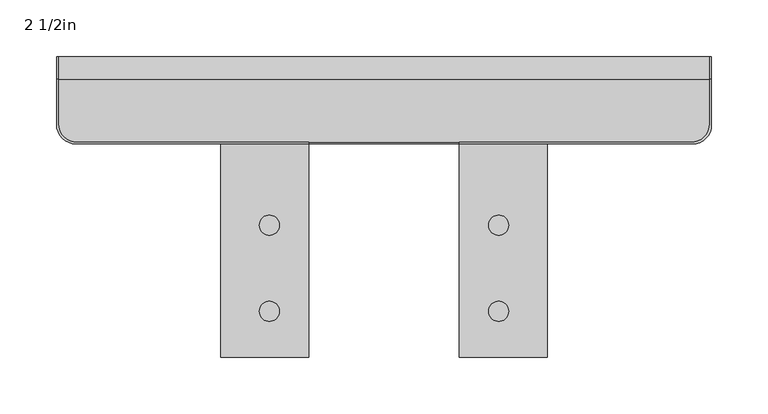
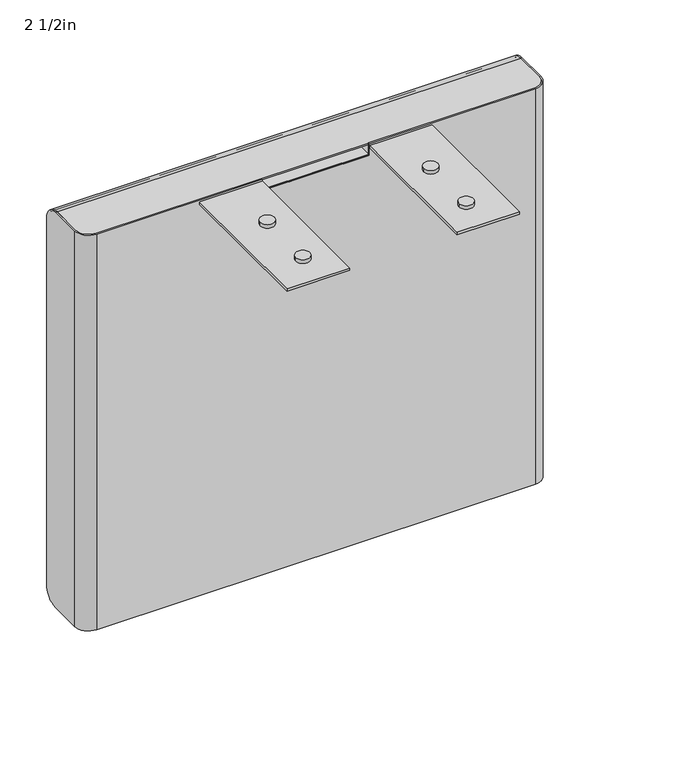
"""IFC4 building model written with IfcOpenShell, lengths in millimetres: furniture geometry, Steelcase - Media Scape - CODEC Case : 2 1/2in."""

import ifcopenshell
import ifcopenshell.guid

model = None  # the IFC model being written
_history = None  # IfcOwnerHistory: only IFC2X3 demands one
_inside = {}  # id of a spatial element -> (the spatial element, [elements in it])
_under = {}  # id of a project, library or spatial element -> (it, [spatial elements below it])
_declared = {}  # id of a project -> (the project, [libraries it declares])
_typed = {}  # id of a type object -> (the type object, [elements of that type])
_made_of = {}  # id of a material, layer set ... -> (it, [elements and type objects made of it])


def new_model(schema):
    """Start an empty IFC model of exactly this schema.

    Asked for "IFC4X3", IfcOpenShell would pick the latest addendum, in which some entities
    have other attributes; the version numbers below select the first issue.
    IFC2X3 requires an IfcOwnerHistory on every rooted entity: one is made here for all.
    """
    global model, _history
    if schema == "IFC4X3":
        model = ifcopenshell.file(schema_version=(4, 3, 0, 0))
    else:
        model = ifcopenshell.file(schema=schema)
    _inside.clear()
    _under.clear()
    _declared.clear()
    _typed.clear()
    _made_of.clear()
    _history = None
    if model.schema == "IFC2X3":
        org = make("IfcOrganization", Name="unknown")
        user = make(
            "IfcPersonAndOrganization",
            ThePerson=make("IfcPerson", FamilyName="unknown"),
            TheOrganization=org,
        )
        app = make(
            "IfcApplication",
            ApplicationDeveloper=org,
            Version="unknown",
            ApplicationFullName="unknown",
            ApplicationIdentifier="unknown",
        )
        _history = make(
            "IfcOwnerHistory",
            OwningUser=user,
            OwningApplication=app,
            ChangeAction="ADDED",
            CreationDate=0,
        )
    return model


def make(cls, **values):
    """One entity of the class cls with the attributes given. An attribute that is None is left unset."""
    return model.create_entity(
        cls, **{name: value for name, value in values.items() if value is not None}
    )


def rooted(cls, **values):
    """An entity with a GlobalId (a new one), such as an element, a storey or a relation."""
    return make(cls, GlobalId=ifcopenshell.guid.new(), OwnerHistory=_history, **values)


def si_unit(unit_type, name, prefix=None):
    """IfcSIUnit, for example si_unit("LENGTHUNIT", "METRE", prefix="MILLI")."""
    return make("IfcSIUnit", UnitType=unit_type, Prefix=prefix, Name=name)


def assignment(units):
    """IfcUnitAssignment: the units of a project."""
    return None if units is None else make("IfcUnitAssignment", Units=units)


def point(xyz):
    """IfcCartesianPoint."""
    return None if xyz is None else make("IfcCartesianPoint", Coordinates=xyz)


def direction(xyz):
    """IfcDirection."""
    return None if xyz is None else make("IfcDirection", DirectionRatios=xyz)


def frame(location, z_axis=None, x_axis=None):
    """IfcAxis2Placement3D, a coordinate frame: its origin and axes. An axis left out is left unset."""
    return make(
        "IfcAxis2Placement3D",
        Location=point(location),
        Axis=direction(z_axis),
        RefDirection=direction(x_axis),
    )


def frame_2d(location, x_axis=None):
    """IfcAxis2Placement2D, a coordinate frame in the plane: its origin and x axis."""
    return make(
        "IfcAxis2Placement2D", Location=point(location), RefDirection=direction(x_axis)
    )


def origin():
    """The frame at (0, 0, 0) with its axes left unset."""
    return frame((0.0, 0.0, 0.0))


def place(relative_to, where):
    """IfcLocalPlacement: puts the frame where relative to a parent placement (None: the world)."""
    return make(
        "IfcLocalPlacement", PlacementRelTo=relative_to, RelativePlacement=where
    )


def context(
    kind, dimensions, precision=None, world=None, true_north=None, identifier=None
):
    """IfcGeometricRepresentationContext, for example the 3D "Model" context."""
    return make(
        "IfcGeometricRepresentationContext",
        ContextIdentifier=identifier,
        ContextType=kind,
        CoordinateSpaceDimension=dimensions,
        Precision=precision,
        WorldCoordinateSystem=world,
        TrueNorth=true_north,
    )


def project(units=None, contexts=None):
    """IfcProject with its units and contexts."""
    return rooted(
        "IfcProject",
        Name="project",
        RepresentationContexts=contexts,
        UnitsInContext=assignment(units),
    )


def spatial(cls, under=None, at=None, **own):
    """A site, building, storey or space (cls), placed at a placement, below another one or the project."""
    s = rooted(cls, ObjectPlacement=at, **own)
    if under is not None:
        _under.setdefault(under.id(), (under, []))[1].append(s)
    return s


def polyline(points):
    """IfcPolyline through the points."""
    return make("IfcPolyline", Points=[point(p) for p in points])


def circle_curve(where, radius):
    """IfcCircle in the frame where."""
    return make("IfcCircle", Position=where, Radius=radius)


def trimmed(basis, trim1, trim2, sense, master):
    """IfcTrimmedCurve: the piece of a basis curve between two trims."""
    return make(
        "IfcTrimmedCurve",
        BasisCurve=basis,
        Trim1=trim1,
        Trim2=trim2,
        SenseAgreement=sense,
        MasterRepresentation=master,
    )


def segment(curve, same_sense, transition):
    """IfcCompositeCurveSegment."""
    return make(
        "IfcCompositeCurveSegment",
        Transition=transition,
        SameSense=same_sense,
        ParentCurve=curve,
    )


def composite_curve(segments, self_intersect=None):
    """IfcCompositeCurve: segments joined end to end."""
    return make("IfcCompositeCurve", Segments=segments, SelfIntersect=self_intersect)


def outline(outer, holes=None, kind="AREA"):
    """IfcArbitraryClosedProfileDef: a profile drawn as a closed curve; with holes, ...WithVoids."""
    if holes is None:
        return make("IfcArbitraryClosedProfileDef", ProfileType=kind, OuterCurve=outer)
    return make(
        "IfcArbitraryProfileDefWithVoids",
        ProfileType=kind,
        OuterCurve=outer,
        InnerCurves=holes,
    )


def extrude(swept, where, along, depth):
    """IfcExtrudedAreaSolid: the profile swept, set in the frame where, extruded along a direction by depth."""
    return make(
        "IfcExtrudedAreaSolid",
        SweptArea=swept,
        Position=where,
        ExtrudedDirection=direction(along),
        Depth=depth,
    )


def shape(context_of_items, identifier, shape_type, items):
    """IfcShapeRepresentation: the items that make up one representation, for example the "Body"."""
    return make(
        "IfcShapeRepresentation",
        ContextOfItems=context_of_items,
        RepresentationIdentifier=identifier,
        RepresentationType=shape_type,
        Items=items,
    )


def source(mapping_origin, context_of_items, identifier, shape_type, items):
    """IfcRepresentationMap: a shape defined once, which mapped items show again and again."""
    return make(
        "IfcRepresentationMap",
        MappingOrigin=mapping_origin,
        MappedRepresentation=shape(context_of_items, identifier, shape_type, items),
    )


def transform(
    local_origin,
    x_axis=None,
    y_axis=None,
    z_axis=None,
    scale=None,
    scale2=None,
    scale3=None,
    uniform=True,
):
    """IfcCartesianTransformationOperator3D, or its non-uniform kind. x_axis, y_axis, z_axis: its Axis1, 2, 3."""
    if uniform:
        return make(
            "IfcCartesianTransformationOperator3D",
            Axis1=direction(x_axis),
            Axis2=direction(y_axis),
            LocalOrigin=point(local_origin),
            Scale=scale,
            Axis3=direction(z_axis),
        )
    return make(
        "IfcCartesianTransformationOperator3DnonUniform",
        Axis1=direction(x_axis),
        Axis2=direction(y_axis),
        LocalOrigin=point(local_origin),
        Scale=scale,
        Axis3=direction(z_axis),
        Scale2=scale2,
        Scale3=scale3,
    )


def mapped(mapping_source, mapping_target):
    """IfcMappedItem: shows the shape of a source again, moved by a transform."""
    return make(
        "IfcMappedItem", MappingSource=mapping_source, MappingTarget=mapping_target
    )


def made_of(thing, what):
    """Note that an element or type object is made of a material, layer set ...; save() writes the relation."""
    if what is not None:
        _made_of.setdefault(what.id(), (what, []))[1].append(thing)
    return thing


def element(
    cls,
    number,
    at=None,
    inside=None,
    cuts=None,
    type_object=None,
    material=None,
    context=None,
    identifier="Body",
    shape_type=None,
    held_by="IfcProductDefinitionShape",
    body=None,
    shapes=None,
    **own,
):
    """One element of the class cls, such as IfcWall. Its Tag is "e" and its number.

    at: its placement. inside: the storey or other place that contains it. cuts: it is an
    opening in that element (IfcRelVoidsElement). A single representation is given by context,
    identifier, shape_type and body (its items); several are given by shapes. held_by: the class
    of the entity that holds the representations. save() writes the other relations.
    """
    e = rooted(cls, Tag="e%d" % number, ObjectPlacement=at, **own)
    if body is not None:
        shapes = [shape(context, identifier, shape_type, body)]
    if shapes is not None:
        e.Representation = make(held_by, Representations=shapes)
    if inside is not None:
        _inside.setdefault(inside.id(), (inside, []))[1].append(e)
    if cuts is not None:
        rooted(
            "IfcRelVoidsElement", RelatingBuildingElement=cuts, RelatedOpeningElement=e
        )
    if type_object is not None:
        _typed.setdefault(type_object.id(), (type_object, []))[1].append(e)
    return made_of(e, material)


def aggregate(whole, parts):
    """IfcRelAggregates: a whole, such as a stair, and the parts it consists of."""
    return rooted("IfcRelAggregates", RelatingObject=whole, RelatedObjects=parts)


def save(model, path):
    """Write the relations noted so far, then the file.

    IfcRelAggregates (storeys below a building ...), IfcRelContainedInSpatialStructure (elements
    in a storey), IfcRelDefinesByType, IfcRelAssociatesMaterial and IfcRelDeclares: one each for
    every whole, place, type object, material and project.
    """
    for whole, parts in _under.values():
        aggregate(whole, parts)
    for where, things in _inside.values():
        rooted(
            "IfcRelContainedInSpatialStructure",
            RelatedElements=things,
            RelatingStructure=where,
        )
    for kind, things in _typed.values():
        rooted("IfcRelDefinesByType", RelatedObjects=things, RelatingType=kind)
    for what, things in _made_of.values():
        rooted("IfcRelAssociatesMaterial", RelatedObjects=things, RelatingMaterial=what)
    for by, libraries in _declared.values():
        rooted("IfcRelDeclares", RelatingContext=by, RelatedDefinitions=libraries)
    model.write(path)


def plane_surface(at):
    """IfcPlane: the flat surface through the origin of the frame at, square to its z axis."""
    return make("IfcPlane", Position=at)


def cylinder_surface(at, radius):
    """IfcCylindricalSurface: all points at the distance radius from the z axis of the frame at."""
    return make("IfcCylindricalSurface", Position=at, Radius=radius)


def revolved_surface(curve, axis_point, axis_direction):
    """IfcSurfaceOfRevolution: the curve turned about the line through axis_point along axis_direction."""
    return make(
        "IfcSurfaceOfRevolution",
        SweptCurve=make("IfcArbitraryOpenProfileDef", ProfileType="CURVE", Curve=curve),
        AxisPosition=make("IfcAxis1Placement", Location=point(axis_point), Axis=direction(axis_direction)),
    )


def advanced_brep(points, edges, surfaces, faces):
    """IfcAdvancedBrep: a solid bounded by faces that lie on surfaces and meet in shared edges.

    An edge is (start, end): straight between two places in points (the first is 0);
    or (start, end, curve); or (start, end, curve, False) where it runs against its curve.
    A face is (place in surfaces, loops), or (place, loops, False) where it looks against
    its surface's normal. A loop lists edges by number (the first is 1), with a minus sign
    where the edge is run from its end to its start. The first loop is the outer one.
    """
    corners = [point(p) for p in points]
    vertices = [make("IfcVertexPoint", VertexGeometry=c) for c in corners]
    made = []
    for start, end, *more in edges:
        made.append(
            make(
                "IfcEdgeCurve",
                EdgeStart=vertices[start],
                EdgeEnd=vertices[end],
                EdgeGeometry=more[0] if more else make("IfcPolyline", Points=[corners[start], corners[end]]),
                SameSense=more[1] if len(more) > 1 else True,
            )
        )
    hull = []
    for where, loops, *sense in faces:
        bounds = []
        for j, loop in enumerate(loops):
            ring = [make("IfcOrientedEdge", EdgeElement=made[abs(k) - 1], Orientation=k > 0) for k in loop]
            bounds.append(
                make(
                    "IfcFaceOuterBound" if j == 0 else "IfcFaceBound",
                    Bound=make("IfcEdgeLoop", EdgeList=ring),
                    Orientation=True,
                )
            )
        hull.append(make("IfcAdvancedFace", Bounds=bounds, FaceSurface=surfaces[where], SameSense=sense[0] if sense else True))
    return make("IfcAdvancedBrep", Outer=make("IfcClosedShell", CfsFaces=hull))


def furniture_2_1_2in_ef0c8fad(model_context):
    return source(origin(), model_context, "Body", "SolidModel", [
        extrude(outline(composite_curve([segment(trimmed(circle_curve(frame_2d((203.2001796, 649.0981023)), 16.9406977), [point((219.6015054, 653.3388273))], [point((219.9157427, 651.8507713))], False, "CARTESIAN"), True, "CONTINUOUS"), segment(polyline([(219.9157427, 651.8507713), (146.6586771, 651.8507713), (146.6586771, 653.3388273), (219.6015054, 653.3388273)]), True, "CONTINUOUS")], self_intersect=False)), frame((-66.6877, 0.0, 0.0), z_axis=(1.0, 0.0, 0.0), x_axis=(0.0, 1.0, 0.0)), (0.0, 0.0, 1.0), 133.3754),
        advanced_brep(
        [(-289.4965, 162.5295872, 668.3248), (-272.1015899, 145.1346771, 668.3248), (-66.6877, 145.1346771, 668.3248), (-66.6877, 146.6586771, 668.3248), (-271.605282, 146.6586771, 668.3248), (-287.9725, 163.0258952, 668.3248), (-287.9725, 202.5638753, 668.3248), (-289.4965, 202.5638753, 668.3248), (272.7502806, 145.1346771, 668.3248), (289.4965, 161.8808965, 668.3248), (289.4965, 202.5638753, 668.3248), (287.9725, 202.5638753, 668.3248), (287.9725, 162.9078418, 668.3248), (271.7233353, 146.6586771, 668.3248), (66.6877, 146.6586771, 668.3248), (66.6877, 145.1346771, 668.3248), (-287.9725, 163.0258952, 149.4028), (-271.605282, 146.6586771, 149.4028), (271.7233353, 146.6586771, 149.4028), (287.9725, 162.9078418, 149.4028), (287.9725, 203.3768772, 149.4028), (289.4965, 203.3768772, 149.4028), (289.4965, 161.8808965, 149.4028), (272.7502806, 145.1346771, 149.4028), (-272.1015899, 145.1346771, 149.4028), (-289.4965, 162.5295872, 149.4028), (-289.4965, 203.3768772, 149.4028), (-287.9725, 203.3768772, 149.4028), (-287.9725, 222.4268772, 168.4528), (-287.9725, 222.4268771, 648.4617981), (-289.4965, 222.4268771, 168.4528), (-289.4965, 222.4268771, 648.4617981), (66.6877, 145.1346771, 653.3388273), (-66.6877, 145.1346771, 653.3388273), (289.4965, 222.4268772, 168.4528), (289.4965, 222.4268772, 648.4617981), (287.9725, 222.4268772, 168.4528), (287.9725, 222.4268772, 648.4617981), (-66.6877, 146.6586771, 653.3388273), (66.6877, 146.6586771, 653.3388273)],
        [
            (0, 1, circle_curve(frame((-272.1015899, 162.5295872, 668.3248), z_axis=(0.0, 0.0, 1.0), x_axis=(1.0, 0.0, 0.0)), 17.3949101)),
            (1, 2),
            (2, 3),
            (3, 4),
            (4, 5, circle_curve(frame((-271.605282, 163.0258952, 668.3248), z_axis=(0.0, 0.0, -1.0), x_axis=(1.0, 0.0, 0.0)), 16.367218)),
            (5, 6),
            (6, 7),
            (7, 0),
            (8, 9, circle_curve(frame((272.7502806, 161.8808965, 668.3248), z_axis=(0.0, 0.0, 1.0), x_axis=(1.0, 0.0, 0.0)), 16.7462194)),
            (9, 10),
            (10, 11),
            (11, 12),
            (12, 13, circle_curve(frame((271.7233353, 162.9078418, 668.3248), z_axis=(0.0, 0.0, -1.0), x_axis=(1.0, 0.0, 0.0)), 16.2491647)),
            (13, 14),
            (14, 15),
            (15, 8),
            (16, 17, circle_curve(frame((-271.605282, 163.0258952, 149.4028), z_axis=(0.0, 0.0, 1.0), x_axis=(1.0, 0.0, 0.0)), 16.367218)),
            (17, 18),
            (18, 19, circle_curve(frame((271.7233353, 162.9078418, 149.4028), z_axis=(0.0, 0.0, 1.0), x_axis=(1.0, 0.0, 0.0)), 16.2491647)),
            (19, 20),
            (20, 21),
            (21, 22),
            (22, 23, circle_curve(frame((272.7502806, 161.8808965, 149.4028), z_axis=(0.0, 0.0, -1.0), x_axis=(1.0, 0.0, 0.0)), 16.7462194)),
            (23, 24),
            (24, 25, circle_curve(frame((-272.1015899, 162.5295872, 149.4028), z_axis=(0.0, 0.0, -1.0), x_axis=(1.0, 0.0, 0.0)), 17.3949101)),
            (25, 26),
            (26, 27),
            (27, 16),
            (5, 16),
            (27, 28, circle_curve(frame((-287.9725, 203.3768772, 168.4528), z_axis=(1.0, 0.0, 0.0), x_axis=(0.0, -1.0, 0.0)), 19.05)),
            (28, 29),
            (29, 6, circle_curve(frame((-287.9725, 202.5638753, 648.4617981), z_axis=(1.0, 0.0, 0.0), x_axis=(0.0, -1.0, 0.0)), 19.8630019)),
            (28, 30),
            (30, 31),
            (31, 29),
            (25, 0),
            (7, 31, circle_curve(frame((-289.4965, 202.5638753, 648.4617981), z_axis=(-1.0, 0.0, 0.0), x_axis=(0.0, -1.0, 0.0)), 19.8630019)),
            (30, 26, circle_curve(frame((-289.4965, 203.3768772, 168.4528), z_axis=(-1.0, 0.0, 0.0), x_axis=(0.0, -1.0, 0.0)), 19.05)),
            (24, 1),
            (23, 8),
            (15, 32),
            (32, 33),
            (33, 2),
            (22, 9),
            (21, 34, circle_curve(frame((289.4965, 203.3768772, 168.4528), z_axis=(1.0, 0.0, 0.0), x_axis=(0.0, -1.0, 0.0)), 19.05)),
            (34, 35),
            (35, 10, circle_curve(frame((289.4965, 202.5638753, 648.4617981), z_axis=(1.0, 0.0, 0.0), x_axis=(0.0, -1.0, 0.0)), 19.8630019)),
            (34, 36),
            (36, 37),
            (37, 35),
            (19, 12),
            (11, 37, circle_curve(frame((287.9725, 202.5638753, 648.4617981), z_axis=(-1.0, 0.0, 0.0), x_axis=(0.0, -1.0, 0.0)), 19.8630019)),
            (36, 20, circle_curve(frame((287.9725, 203.3768772, 168.4528), z_axis=(-1.0, 0.0, 0.0), x_axis=(0.0, -1.0, 0.0)), 19.05)),
            (18, 13),
            (17, 4),
            (3, 38),
            (38, 39),
            (39, 14),
            (39, 32),
            (38, 33),
        ],
        [
            plane_surface(frame((-287.9725, 222.4268772, 668.3248), z_axis=(0.0, 0.0, 1.0), x_axis=(0.0, 1.0, 0.0))),
            plane_surface(frame((-287.9725, 222.4268772, 149.4028), z_axis=(0.0, 0.0, -1.0), x_axis=(0.0, -1.0, 0.0))),
            plane_surface(frame((-287.9725, 163.0258952, 668.3248), z_axis=(1.0, 0.0, 0.0), x_axis=(0.0, 0.0, -1.0))),
            plane_surface(frame((-287.9725, 222.4268771, 668.3248), z_axis=(0.0, 1.0, 0.0), x_axis=(0.0, 0.0, -1.0))),
            plane_surface(frame((-289.4965, 222.4268771, 668.3248), z_axis=(-1.0, 0.0, 0.0), x_axis=(0.0, 0.0, -1.0))),
            cylinder_surface(frame((-272.1015899, 162.5295872, 149.4028), z_axis=(0.0, 0.0, 1.0), x_axis=(1.0, 0.0, 0.0)), 17.3949101),
            plane_surface(frame((-272.1015899, 145.1346771, 668.3248), z_axis=(0.0, -1.0, 0.0), x_axis=(0.0, 0.0, -1.0))),
            cylinder_surface(frame((272.7502806, 161.8808965, 149.4028), z_axis=(0.0, 0.0, 1.0), x_axis=(1.0, 0.0, 0.0)), 16.7462194),
            plane_surface(frame((289.4965, 161.8808965, 668.3248), z_axis=(1.0, 0.0, 0.0), x_axis=(0.0, 0.0, -1.0))),
            plane_surface(frame((289.4965, 222.4268772, 668.3248), z_axis=(0.0, 1.0, 0.0), x_axis=(0.0, 0.0, -1.0))),
            plane_surface(frame((287.9725, 222.4268772, 668.3248), z_axis=(-1.0, 0.0, 0.0), x_axis=(0.0, 0.0, -1.0))),
            revolved_surface(polyline([(287.97249999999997, 162.9078418, 149.4028), (287.97249999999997, 162.9078418, 668.3248000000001)]), (271.7233353, 162.9078418, 149.4028), (0.0, 0.0, -1.0)),
            plane_surface(frame((271.7233353, 146.6586771, 668.3248), z_axis=(0.0, 1.0, 0.0), x_axis=(0.0, 0.0, -1.0))),
            revolved_surface(polyline([(-255.23806399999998, 163.0258952, 149.4028), (-255.23806399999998, 163.0258952, 668.3248000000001)]), (-271.605282, 163.0258952, 149.4028), (0.0, 0.0, -1.0)),
            cylinder_surface(frame((-301.5442454, 202.5638753, 648.4617981), z_axis=(-1.0, 0.0, 0.0), x_axis=(0.0, -1.0, 0.0)), 19.8630019),
            cylinder_surface(frame((-301.5442454, 203.3768772, 168.4528), z_axis=(-1.0, 0.0, 0.0), x_axis=(0.0, -1.0, 0.0)), 19.05),
            plane_surface(frame((66.6877, 319.0306772, 679.4349791), z_axis=(-1.0, 0.0, 0.0), x_axis=(0.0, -1.0, 0.0))),
            plane_surface(frame((66.6877, 319.0306772, 653.3388273), z_axis=(0.0, 0.0, 1.0), x_axis=(0.0, -1.0, 0.0))),
            plane_surface(frame((-66.6877, 319.0306772, 653.3388273), z_axis=(1.0, 0.0, 0.0), x_axis=(0.0, -1.0, 0.0))),
        ],
        [
            (0, [[1, 2, 3, 4, 5, 6, 7, 8]]),
            (0, [[9, 10, 11, 12, 13, 14, 15, 16]]),
            (1, [[17, 18, 19, 20, 21, 22, 23, 24, 25, 26, 27, 28]]),
            (2, [[29, -28, 30, 31, 32, -6]]),
            (3, [[-31, 33, 34, 35]]),
            (4, [[36, -8, 37, -34, 38, -26]]),
            (5, [[-1, -36, -25, 39]]),
            (6, [[-24, 40, -16, 41, 42, 43, -2, -39]]),
            (7, [[-9, -40, -23, 44]]),
            (8, [[-44, -22, 45, 46, 47, -10]]),
            (9, [[-46, 48, 49, 50]]),
            (10, [[51, -12, 52, -49, 53, -20]]),
            (11, [[-13, -51, -19, 54]]),
            (12, [[-18, 55, -4, 56, 57, 58, -14, -54]]),
            (13, [[-5, -55, -17, -29]]),
            (14, [[-7, -32, -35, -37]]),
            (14, [[-11, -47, -50, -52]]),
            (15, [[-21, -53, -48, -45]]),
            (15, [[-27, -38, -33, -30]]),
            (16, [[59, -41, -15, -58]]),
            (17, [[-59, -57, 60, -42]]),
            (18, [[-60, -56, -3, -43]]),
        ],
    ),
        advanced_brep(
        [(287.9725, 203.3768772, 149.4028), (287.9725, 222.4268772, 168.4528), (287.9725, 222.4268772, 648.4617981), (287.9725, 202.5638753, 668.3248), (287.9725, 162.9078418, 668.3248), (287.9725, 162.9078418, 666.0388), (287.9725, 203.2001796, 666.0388), (287.9725, 220.1408772, 649.0981023), (287.9725, 220.1408772, 168.3752942), (287.9725, 203.454383, 151.6888), (287.9725, 162.9078418, 151.6888), (287.9725, 162.9078418, 149.4028), (-287.9725, 203.454383, 151.6888), (-287.9725, 220.1408772, 168.3752942), (-287.9725, 220.1408772, 649.0981023), (-287.9725, 203.2001796, 666.0388), (-287.9725, 163.0258952, 666.0388), (-287.9725, 163.0258952, 668.3248), (-287.9725, 202.5638753, 668.3248), (-287.9725, 222.4268772, 648.4617981), (-287.9725, 222.4268772, 168.4528), (-287.9725, 203.3768772, 149.4028), (-287.9725, 163.0258952, 149.4028), (-287.9725, 163.0258952, 151.6888), (-271.605282, 146.6586771, 151.6888), (271.7233353, 146.6586771, 151.6888), (-271.605282, 146.6586771, 149.4028), (271.7233353, 146.6586771, 149.4028), (-271.605282, 146.6586771, 668.3248), (271.7233353, 146.6586771, 668.3248), (-271.605282, 146.6586771, 666.0388), (271.7233353, 146.6586771, 666.0388)],
        [
            (0, 1, circle_curve(frame((287.9725, 203.3768772, 168.4528), z_axis=(1.0, 0.0, 0.0), x_axis=(0.0, -1.0, 0.0)), 19.05)),
            (1, 2),
            (2, 3, circle_curve(frame((287.9725, 202.5638753, 648.4617981), z_axis=(1.0, 0.0, 0.0), x_axis=(0.0, -1.0, 0.0)), 19.8630019)),
            (3, 4),
            (4, 5),
            (5, 6),
            (6, 7, circle_curve(frame((287.9725, 203.2001796, 649.0981023), z_axis=(-1.0, 0.0, 0.0), x_axis=(0.0, -1.0, 0.0)), 16.9406977)),
            (7, 8),
            (8, 9, circle_curve(frame((287.9725, 203.454383, 168.3752942), z_axis=(-1.0, 0.0, 0.0), x_axis=(0.0, -1.0, 0.0)), 16.6864942)),
            (9, 10),
            (10, 11),
            (11, 0),
            (12, 13, circle_curve(frame((-287.9725, 203.454383, 168.3752942), z_axis=(1.0, 0.0, 0.0), x_axis=(0.0, -1.0, 0.0)), 16.6864942)),
            (13, 14),
            (14, 15, circle_curve(frame((-287.9725, 203.2001796, 649.0981023), z_axis=(1.0, 0.0, 0.0), x_axis=(0.0, -1.0, 0.0)), 16.9406977)),
            (15, 16),
            (16, 17),
            (17, 18),
            (18, 19, circle_curve(frame((-287.9725, 202.5638753, 648.4617981), z_axis=(-1.0, 0.0, 0.0), x_axis=(0.0, -1.0, 0.0)), 19.8630019)),
            (19, 20),
            (20, 21, circle_curve(frame((-287.9725, 203.3768772, 168.4528), z_axis=(-1.0, 0.0, 0.0), x_axis=(0.0, -1.0, 0.0)), 19.05)),
            (21, 22),
            (22, 23),
            (23, 12),
            (9, 12),
            (23, 24, circle_curve(frame((-271.605282, 163.0258952, 151.6888), z_axis=(0.0, 0.0, 1.0), x_axis=(1.0, 0.0, 0.0)), 16.367218)),
            (24, 25),
            (25, 10, circle_curve(frame((271.7233353, 162.9078418, 151.6888), z_axis=(0.0, 0.0, 1.0), x_axis=(1.0, 0.0, 0.0)), 16.2491647)),
            (24, 26),
            (26, 27),
            (27, 25),
            (21, 0),
            (11, 27, circle_curve(frame((271.7233353, 162.9078418, 149.4028), z_axis=(0.0, 0.0, -1.0), x_axis=(1.0, 0.0, 0.0)), 16.2491647)),
            (26, 22, circle_curve(frame((-271.605282, 163.0258952, 149.4028), z_axis=(0.0, 0.0, -1.0), x_axis=(1.0, 0.0, 0.0)), 16.367218)),
            (20, 1),
            (19, 2),
            (18, 3),
            (17, 28, circle_curve(frame((-271.605282, 163.0258952, 668.3248), z_axis=(0.0, 0.0, 1.0), x_axis=(1.0, 0.0, 0.0)), 16.367218)),
            (28, 29),
            (29, 4, circle_curve(frame((271.7233353, 162.9078418, 668.3248), z_axis=(0.0, 0.0, 1.0), x_axis=(1.0, 0.0, 0.0)), 16.2491647)),
            (28, 30),
            (30, 31),
            (31, 29),
            (15, 6),
            (5, 31, circle_curve(frame((271.7233353, 162.9078418, 666.0388), z_axis=(0.0, 0.0, -1.0), x_axis=(1.0, 0.0, 0.0)), 16.2491647)),
            (30, 16, circle_curve(frame((-271.605282, 163.0258952, 666.0388), z_axis=(0.0, 0.0, -1.0), x_axis=(1.0, 0.0, 0.0)), 16.367218)),
            (14, 7),
            (13, 8),
        ],
        [
            plane_surface(frame((287.9725, 146.6586771, 151.6888), z_axis=(1.0, 0.0, 0.0), x_axis=(0.0, -1.0, 0.0))),
            plane_surface(frame((-287.9725, 146.6586771, 151.6888), z_axis=(-1.0, 0.0, 0.0), x_axis=(0.0, 1.0, 0.0))),
            plane_surface(frame((287.9725, 203.454383, 151.6888), z_axis=(0.0, 0.0, 1.0), x_axis=(-1.0, 0.0, 0.0))),
            plane_surface(frame((287.9725, 146.6586771, 151.6888), z_axis=(0.0, -1.0, 0.0), x_axis=(-1.0, 0.0, 0.0))),
            plane_surface(frame((287.9725, 146.6586771, 149.4028), z_axis=(0.0, 0.0, -1.0), x_axis=(-1.0, 0.0, 0.0))),
            cylinder_surface(frame((-287.9725, 203.3768772, 168.4528), z_axis=(1.0, 0.0, 0.0), x_axis=(0.0, -1.0, 0.0)), 19.05),
            plane_surface(frame((287.9725, 222.4268772, 168.4528), z_axis=(0.0, 1.0, 0.0), x_axis=(-1.0, 0.0, 0.0))),
            cylinder_surface(frame((-287.9725, 202.5638753, 648.4617981), z_axis=(1.0, 0.0, 0.0), x_axis=(0.0, -1.0, 0.0)), 19.8630019),
            plane_surface(frame((287.9725, 202.5638753, 668.3248), z_axis=(0.0, 0.0, 1.0), x_axis=(-1.0, 0.0, 0.0))),
            plane_surface(frame((287.9725, 146.6586771, 668.3248), z_axis=(0.0, -1.0, 0.0), x_axis=(-1.0, 0.0, 0.0))),
            plane_surface(frame((287.9725, 146.6586771, 666.0388), z_axis=(0.0, 0.0, -1.0), x_axis=(-1.0, 0.0, 0.0))),
            revolved_surface(polyline([(-287.9725, 186.25948190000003, 649.0981023), (287.9725, 186.25948190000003, 649.0981023)]), (-287.9725, 203.2001796, 649.0981023), (-1.0, 0.0, 0.0)),
            plane_surface(frame((287.9725, 220.1408772, 649.0981023), z_axis=(0.0, -1.0, 0.0), x_axis=(-1.0, 0.0, 0.0))),
            revolved_surface(polyline([(-287.9725, 186.7678888, 168.3752942), (287.9725, 186.7678888, 168.3752942)]), (-287.9725, 203.454383, 168.3752942), (-1.0, 0.0, 0.0)),
            cylinder_surface(frame((271.7233353, 162.9078418, 126.5654858), z_axis=(0.0, 0.0, -1.0), x_axis=(1.0, 0.0, 0.0)), 16.2491647),
            cylinder_surface(frame((-271.605282, 163.0258952, 126.5654858), z_axis=(0.0, 0.0, -1.0), x_axis=(1.0, 0.0, 0.0)), 16.367218),
        ],
        [
            (0, [[1, 2, 3, 4, 5, 6, 7, 8, 9, 10, 11, 12]]),
            (1, [[13, 14, 15, 16, 17, 18, 19, 20, 21, 22, 23, 24]]),
            (2, [[25, -24, 26, 27, 28, -10]]),
            (3, [[-27, 29, 30, 31]]),
            (4, [[32, -12, 33, -30, 34, -22]]),
            (5, [[-1, -32, -21, 35]]),
            (6, [[-2, -35, -20, 36]]),
            (7, [[-3, -36, -19, 37]]),
            (8, [[-37, -18, 38, 39, 40, -4]]),
            (9, [[-39, 41, 42, 43]]),
            (10, [[44, -6, 45, -42, 46, -16]]),
            (11, [[-7, -44, -15, 47]]),
            (12, [[-8, -47, -14, 48]]),
            (13, [[-9, -48, -13, -25]]),
            (14, [[-5, -40, -43, -45]]),
            (14, [[-11, -28, -31, -33]]),
            (15, [[-17, -46, -41, -38]]),
            (15, [[-23, -34, -29, -26]]),
        ],
    ),
        extrude(outline(composite_curve([segment(trimmed(circle_curve(frame_2d((-101.3638584, 73.3611162)), 8.89), [point((-110.2538584, 73.3611162))], [point((-92.4738584, 73.3611162))], False, "CARTESIAN"), True, "CONTINUOUS"), segment(trimmed(circle_curve(frame_2d((-101.3638584, 73.3611162)), 8.89), [point((-92.4738584, 73.3611162))], [point((-110.2538584, 73.3611162))], False, "CARTESIAN"), True, "CONTINUOUS")], self_intersect=False)), frame((0.0, 0.0, 666.0388), z_axis=(0.0, 0.0, 1.0), x_axis=(1.0, 0.0, 0.0)), (0.0, 0.0, 1.0), 4.7752),
        extrude(outline(composite_curve([segment(trimmed(circle_curve(frame_2d((-101.3638584, -2.8388838)), 8.89), [point((-110.2538584, -2.8388838))], [point((-92.4738584, -2.8388838))], False, "CARTESIAN"), True, "CONTINUOUS"), segment(trimmed(circle_curve(frame_2d((-101.3638584, -2.8388838)), 8.89), [point((-92.4738584, -2.8388838))], [point((-110.2538584, -2.8388838))], False, "CARTESIAN"), True, "CONTINUOUS")], self_intersect=False)), frame((0.0, 0.0, 666.0388), z_axis=(0.0, 0.0, 1.0), x_axis=(1.0, 0.0, 0.0)), (0.0, 0.0, 1.0), 4.7752),
        extrude(outline(composite_curve([segment(trimmed(circle_curve(frame_2d((101.3638584, 73.3611162)), 8.89), [point((110.2538584, 73.3611162))], [point((92.4738584, 73.3611162))], False, "CARTESIAN"), True, "CONTINUOUS"), segment(trimmed(circle_curve(frame_2d((101.3638584, 73.3611162)), 8.89), [point((92.4738584, 73.3611162))], [point((110.2538584, 73.3611162))], False, "CARTESIAN"), True, "CONTINUOUS")], self_intersect=False)), frame((0.0, 0.0, 666.0388), z_axis=(0.0, 0.0, 1.0), x_axis=(1.0, 0.0, 0.0)), (0.0, 0.0, 1.0), 4.7752),
        extrude(outline(composite_curve([segment(trimmed(circle_curve(frame_2d((101.3638584, -2.8388838)), 8.89), [point((110.2538584, -2.8388838))], [point((92.4738584, -2.8388838))], False, "CARTESIAN"), True, "CONTINUOUS"), segment(trimmed(circle_curve(frame_2d((101.3638584, -2.8388838)), 8.89), [point((92.4738584, -2.8388838))], [point((110.2538584, -2.8388838))], False, "CARTESIAN"), True, "CONTINUOUS")], self_intersect=False)), frame((0.0, 0.0, 666.0388), z_axis=(0.0, 0.0, 1.0), x_axis=(1.0, 0.0, 0.0)), (0.0, 0.0, 1.0), 4.7752),
        extrude(outline(polyline([(-144.462503, -43.206329), (-144.462503, 145.1346771), (-66.6877, 145.1346771), (-66.6877, -43.206329), (-144.462503, -43.206329)])), frame((0.0, 0.0, 662.9907818), z_axis=(0.0, 0.0, 1.0), x_axis=(1.0, 0.0, 0.0)), (0.0, 0.0, 1.0), 3.0480182),
        extrude(outline(polyline([(66.6877, 145.1346771), (144.462503, 145.1346771), (144.462503, -43.206329), (66.6877, -43.206329), (66.6877, 145.1346771)])), frame((0.0, 0.0, 662.9907818), z_axis=(0.0, 0.0, 1.0), x_axis=(1.0, 0.0, 0.0)), (0.0, 0.0, 1.0), 3.0480182),
    ])


if __name__ == "__main__":
    model = new_model("IFC4")
    model_context = context("Model", 3, world=origin())
    ifc_project = project(units=[si_unit("LENGTHUNIT", "METRE", prefix="MILLI")], contexts=[model_context])
    site = spatial("IfcSite", under=ifc_project)
    building = spatial("IfcBuilding", under=site)
    placement = place(None, origin())
    furniture_2_1_2in_shape = furniture_2_1_2in_ef0c8fad(model_context)
    element("IfcFurniture", 1, ObjectType="Steelcase - Media Scape - CODEC Case : 2 1/2in", at=placement, inside=building, context=model_context, shape_type="MappedRepresentation", body=[
        mapped(furniture_2_1_2in_shape, transform((0.0, 0.0, 0.0), x_axis=(1.0, 0.0, 0.0), y_axis=(0.0, 1.0, 0.0), z_axis=(0.0, 0.0, 1.0))),
    ])
    save(model, "model.ifc")
